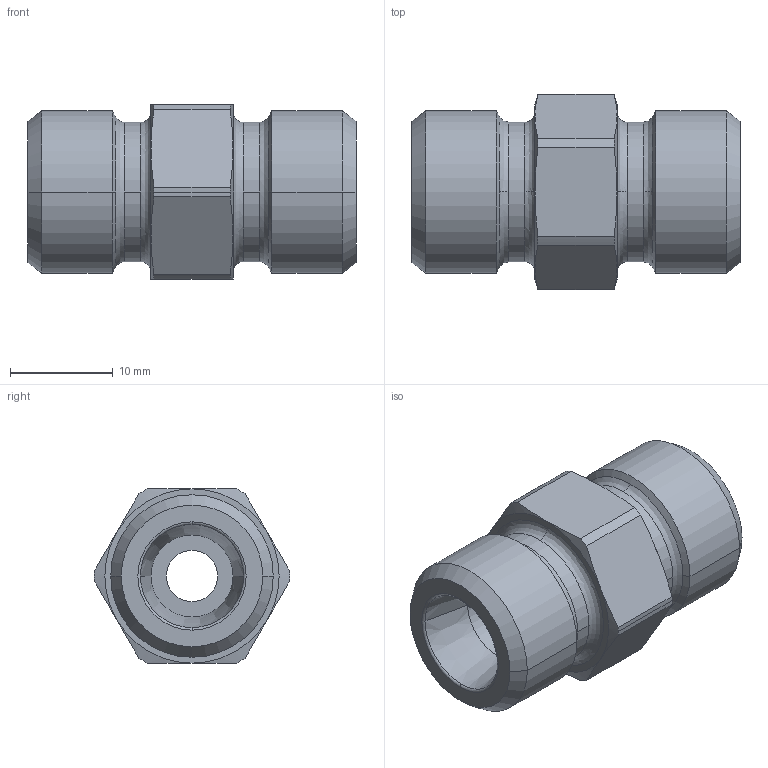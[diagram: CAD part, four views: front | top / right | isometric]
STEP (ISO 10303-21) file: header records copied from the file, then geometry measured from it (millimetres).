
FILE_DESCRIPTION((''),'2;1');
FILE_NAME('103515.stp','2007-10-31T11:33:23',(''),(''),'AutoCAD STEP 2000i','AutoCAD 2000i',', , ');
FILE_SCHEMA(('CONFIG_CONTROL_DESIGN'));
Length unit declared in the file: millimetre
Products named in the file (2): 103515.0; CHIAVE SMUSSATA#0
Assembly tree (1 placements, depth 2):
  103515.0
    CHIAVE SMUSSATA#0
Bounding box: 32 x 19.1 x 17 mm (x, y, z)
Volume: 5106.1 mm3; surface area: 2718.1 mm2
Topology: 1 solids, 1 shells, 70 faces, 172 edges, 108 vertices
Faces by surface type: cone 24, cylinder 22, plane 12, bspline 8, torus 4
Entity records: 2513 total; most frequent: CARTESIAN_POINT 752, DIRECTION 384, ORIENTED_EDGE 344, AXIS2_PLACEMENT_3D 172, EDGE_CURVE 172, VERTEX_POINT 108, CIRCLE 108, EDGE_LOOP 76
